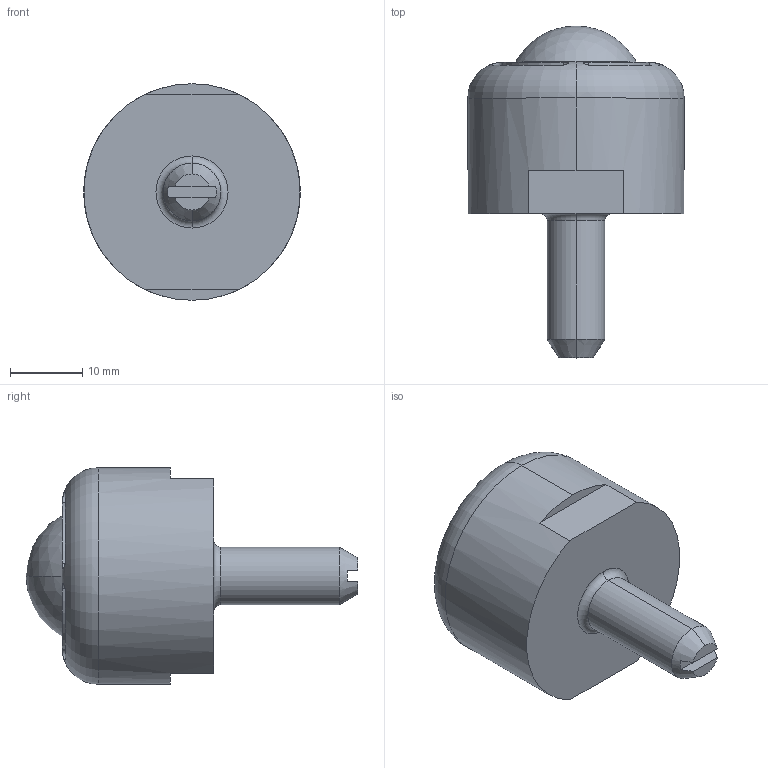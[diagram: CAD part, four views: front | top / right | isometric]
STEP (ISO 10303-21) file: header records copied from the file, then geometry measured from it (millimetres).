
FILE_DESCRIPTION (( 'STEP AP203' ), '1' );
FILE_NAME ('pvs50b.STEP', '2015-12-03T07:07:56', ( '' ), ( '' ), 'SwSTEP 2.0', 'SolidWorks 2013', '' );
FILE_SCHEMA (( 'CONFIG_CONTROL_DESIGN' ));
Length unit declared in the file: millimetre
Products named in the file (1): pvs50b
Bounding box: 30 x 46 x 30 mm (x, y, z)
Volume: 15483.3 mm3; surface area: 4084.5 mm2
Topology: 1 solids, 1 shells, 47 faces, 112 edges, 73 vertices
Faces by surface type: cylinder 24, plane 15, torus 4, cone 2, sphere 2
Entity records: 1565 total; most frequent: CARTESIAN_POINT 369, DIRECTION 250, ORIENTED_EDGE 224, EDGE_CURVE 112, AXIS2_PLACEMENT_3D 106, VERTEX_POINT 73, CIRCLE 58, EDGE_LOOP 53
